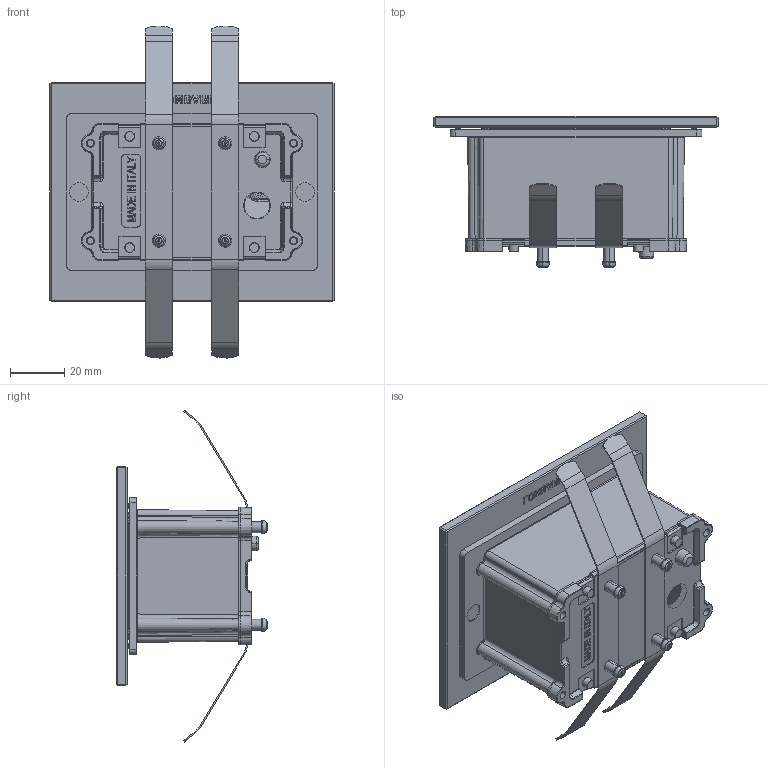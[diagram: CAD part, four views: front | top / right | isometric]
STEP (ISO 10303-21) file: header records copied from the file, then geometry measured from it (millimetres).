
FILE_DESCRIPTION((''),'2;1');
FILE_NAME('VERSIONE-CARTONGESSO_SW0002','2025-07-29T10:31:09',('Piccioli'),(''),'CREO PARAMETRIC BY PTC INC, 2025010','CREO PARAMETRIC BY PTC INC, 2025010','');
FILE_SCHEMA(('CONFIG_CONTROL_DESIGN'));
Length unit declared in the file: millimetre
Products named in the file (1): VERSIONE-CARTONGESSO_SW0002
Bounding box: 105 x 55.84 x 122.61 mm (x, y, z)
Surface area: 65744.2 mm2 (no closed solid volume)
Topology: 0 solids, 60 shells, 741 faces, 2570 edges, 1873 vertices
Faces by surface type: plane 288, cylinder 164, cone 123, torus 95, bspline 66, sphere 5
Entity records: 37140 total; most frequent: CARTESIAN_POINT 15796, DIRECTION 4264, ORIENTED_EDGE 4116, EDGE_CURVE 2566, VERTEX_POINT 1873, AXIS2_PLACEMENT_3D 1467, VECTOR 1330, LINE 1330
